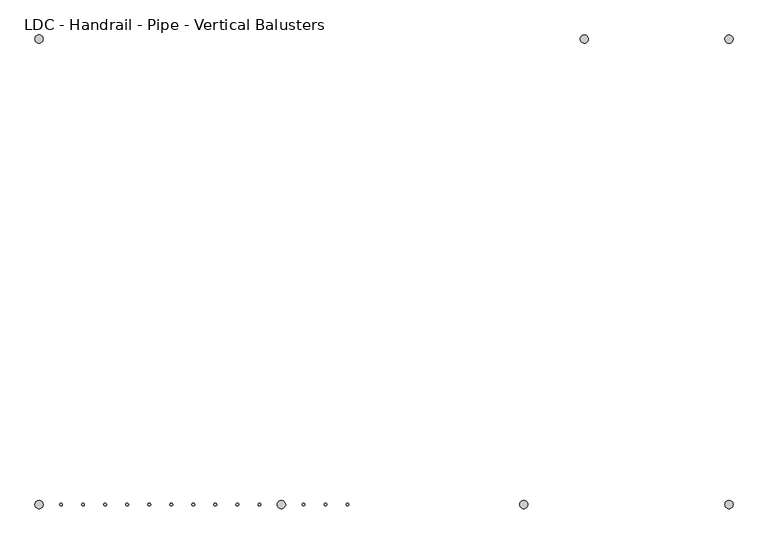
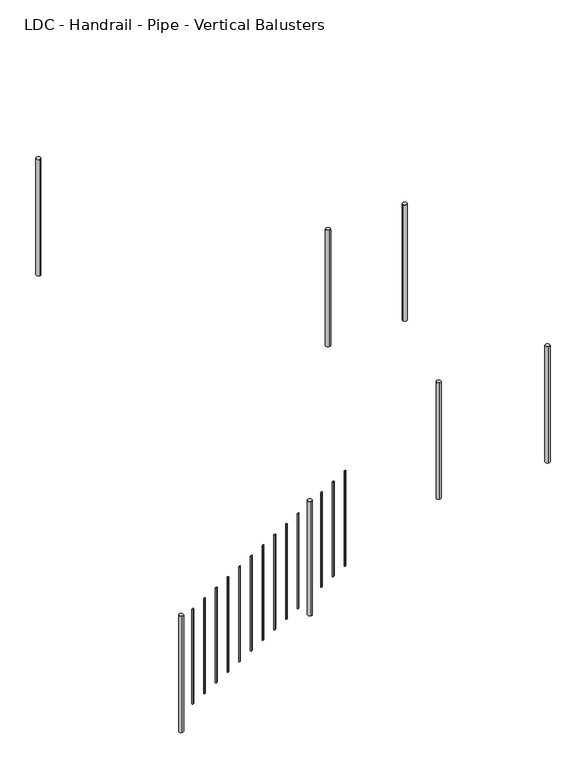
"""IFC4 building model written with IfcOpenShell, lengths in millimetres: railing geometry, LDC - Handrail - Pipe - Vertical Balusters."""

from ifc_helpers import new_model, si_unit, point, frame, frame_2d, origin, place, context, project, spatial, circle_curve, ellipse_curve, trimmed, segment, composite_curve, outline, extrude, source, transform, mapped, element, save
from ifc_brep_helpers import plane_surface, cylinder_surface, advanced_brep


def ldc_handrail_pipe_vertical_balusters_a562cb55(model_context):
    return source(origin(), model_context, "Body", "SolidModel", [
        advanced_brep(
        [(-1486.9516552, 8341.677236, 2057.7034503), (-1486.9516552, 8341.677236, 1192.6170455), (-1486.9516552, 8354.377236, 1192.6170455), (-1486.9516552, 8354.377236, 2057.7034503)],
        [
            (0, 1),
            (1, 2, ellipse_curve(frame((-1486.9516552, 8348.027236, 1192.6170455), z_axis=(-0.5183017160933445, 0.0, 0.8551978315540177), x_axis=(0.8551978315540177, 0.0, 0.5183017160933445)), 7.4251825, 6.35)),
            (2, 3),
            (3, 0, ellipse_curve(frame((-1486.9516552, 8348.027236, 2057.7034503), z_axis=(0.5183017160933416, 0.0, -0.8551978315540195), x_axis=(0.8551978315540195, 0.0, 0.5183017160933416)), 7.4251825, 6.35)),
            (0, 3, ellipse_curve(frame((-1486.9516552, 8348.027236, 2057.7034503), z_axis=(0.5183017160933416, 0.0, -0.8551978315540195), x_axis=(0.8551978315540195, 0.0, 0.5183017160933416)), 7.4251825, 6.35)),
            (2, 1, ellipse_curve(frame((-1486.9516552, 8348.027236, 1192.6170455), z_axis=(-0.5183017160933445, 0.0, 0.8551978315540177), x_axis=(0.8551978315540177, 0.0, 0.5183017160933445)), 7.4251825, 6.35)),
        ],
        [
            cylinder_surface(frame((-1486.9516552, 8348.027236, 964.0170455), z_axis=(0.0, 0.0, 1.0), x_axis=(0.0, 1.0, 0.0)), 6.35),
            plane_surface(frame((-1474.2516552, 8360.727236, 2065.40042), z_axis=(-0.5183017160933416, 0.0, 0.8551978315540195), x_axis=(0.0, -1.0, 0.0))),
            plane_surface(frame((-1499.6516552, 8360.727236, 1184.9200758), z_axis=(0.5183017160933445, 0.0, -0.8551978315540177), x_axis=(0.0, -1.0, 0.0))),
        ],
        [
            (0, [[1, 2, 3, 4]]),
            (0, [[-1, 5, -3, 6]]),
            (1, [[-4, -5]]),
            (2, [[-2, -6]]),
        ],
    ),
        advanced_brep(
        [(-1588.5516552, 8341.677236, 1995.8852684), (-1588.5516552, 8341.677236, 1130.7988636), (-1588.5516552, 8354.377236, 1130.7988636), (-1588.5516552, 8354.377236, 1995.8852684)],
        [
            (0, 1),
            (1, 2, ellipse_curve(frame((-1588.5516552, 8348.027236, 1130.7988636), z_axis=(-0.5183017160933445, 0.0, 0.8551978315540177), x_axis=(0.8551978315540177, 0.0, 0.5183017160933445)), 7.4251825, 6.35)),
            (2, 3),
            (3, 0, ellipse_curve(frame((-1588.5516552, 8348.027236, 1995.8852684), z_axis=(0.5183017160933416, 0.0, -0.8551978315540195), x_axis=(0.8551978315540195, 0.0, 0.5183017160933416)), 7.4251825, 6.35)),
            (0, 3, ellipse_curve(frame((-1588.5516552, 8348.027236, 1995.8852684), z_axis=(0.5183017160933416, 0.0, -0.8551978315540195), x_axis=(0.8551978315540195, 0.0, 0.5183017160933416)), 7.4251825, 6.35)),
            (2, 1, ellipse_curve(frame((-1588.5516552, 8348.027236, 1130.7988636), z_axis=(-0.5183017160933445, 0.0, 0.8551978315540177), x_axis=(0.8551978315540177, 0.0, 0.5183017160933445)), 7.4251825, 6.35)),
        ],
        [
            cylinder_surface(frame((-1588.5516552, 8348.027236, 902.1988636), z_axis=(0.0, 0.0, 1.0), x_axis=(0.0, 1.0, 0.0)), 6.35),
            plane_surface(frame((-1575.8516552, 8360.727236, 2003.5822381), z_axis=(-0.5183017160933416, 0.0, 0.8551978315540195), x_axis=(0.0, -1.0, 0.0))),
            plane_surface(frame((-1601.2516552, 8360.727236, 1123.1018939), z_axis=(0.5183017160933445, 0.0, -0.8551978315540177), x_axis=(0.0, -1.0, 0.0))),
        ],
        [
            (0, [[1, 2, 3, 4]]),
            (0, [[-1, 5, -3, 6]]),
            (1, [[-4, -5]]),
            (2, [[-2, -6]]),
        ],
    ),
        advanced_brep(
        [(-1690.1516552, 8341.677236, 1934.0670866), (-1690.1516552, 8341.677236, 1068.9806818), (-1690.1516552, 8354.377236, 1068.9806818), (-1690.1516552, 8354.377236, 1934.0670866)],
        [
            (0, 1),
            (1, 2, ellipse_curve(frame((-1690.1516552, 8348.027236, 1068.9806818), z_axis=(-0.5183017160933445, 0.0, 0.8551978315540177), x_axis=(0.8551978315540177, 0.0, 0.5183017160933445)), 7.4251825, 6.35)),
            (2, 3),
            (3, 0, ellipse_curve(frame((-1690.1516552, 8348.027236, 1934.0670866), z_axis=(0.5183017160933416, 0.0, -0.8551978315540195), x_axis=(0.8551978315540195, 0.0, 0.5183017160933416)), 7.4251825, 6.35)),
            (0, 3, ellipse_curve(frame((-1690.1516552, 8348.027236, 1934.0670866), z_axis=(0.5183017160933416, 0.0, -0.8551978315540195), x_axis=(0.8551978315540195, 0.0, 0.5183017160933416)), 7.4251825, 6.35)),
            (2, 1, ellipse_curve(frame((-1690.1516552, 8348.027236, 1068.9806818), z_axis=(-0.5183017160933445, 0.0, 0.8551978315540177), x_axis=(0.8551978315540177, 0.0, 0.5183017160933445)), 7.4251825, 6.35)),
        ],
        [
            cylinder_surface(frame((-1690.1516552, 8348.027236, 840.3806818), z_axis=(0.0, 0.0, 1.0), x_axis=(0.0, 1.0, 0.0)), 6.35),
            plane_surface(frame((-1677.4516552, 8360.727236, 1941.7640563), z_axis=(-0.5183017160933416, 0.0, 0.8551978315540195), x_axis=(0.0, -1.0, 0.0))),
            plane_surface(frame((-1702.8516552, 8360.727236, 1061.2837121), z_axis=(0.5183017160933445, 0.0, -0.8551978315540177), x_axis=(0.0, -1.0, 0.0))),
        ],
        [
            (0, [[1, 2, 3, 4]]),
            (0, [[-1, 5, -3, 6]]),
            (1, [[-4, -5]]),
            (2, [[-2, -6]]),
        ],
    ),
        extrude(outline(composite_curve([segment(trimmed(circle_curve(frame_2d((-1791.7516552, 8348.027236)), 19.05), [point((-1791.7516552, 8367.077236))], [point((-1791.7516552, 8328.977236))], False, "CARTESIAN"), True, "CONTINUOUS"), segment(trimmed(circle_curve(frame_2d((-1791.7516552, 8348.027236)), 19.05), [point((-1791.7516552, 8328.977236))], [point((-1791.7516552, 8367.077236))], False, "CARTESIAN"), True, "CONTINUOUS")], self_intersect=False)), frame((0.0, 0.0, 850.0), z_axis=(0.0, 0.0, 1.0), x_axis=(1.0, 0.0, 0.0)), (0.0, 0.0, 1.0), 1047.75),
        advanced_brep(
        [(-1791.7516552, 8341.677236, 1872.2489048), (-1791.7516552, 8341.677236, 1007.1625), (-1791.7516552, 8354.377236, 1007.1625), (-1791.7516552, 8354.377236, 1872.2489048)],
        [
            (0, 1),
            (1, 2, ellipse_curve(frame((-1791.7516552, 8348.027236, 1007.1625), z_axis=(-0.5183017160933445, 0.0, 0.8551978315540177), x_axis=(0.8551978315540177, 0.0, 0.5183017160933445)), 7.4251825, 6.35)),
            (2, 3),
            (3, 0, ellipse_curve(frame((-1791.7516552, 8348.027236, 1872.2489048), z_axis=(0.5183017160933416, 0.0, -0.8551978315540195), x_axis=(0.8551978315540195, 0.0, 0.5183017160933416)), 7.4251825, 6.35)),
            (0, 3, ellipse_curve(frame((-1791.7516552, 8348.027236, 1872.2489048), z_axis=(0.5183017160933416, 0.0, -0.8551978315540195), x_axis=(0.8551978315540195, 0.0, 0.5183017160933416)), 7.4251825, 6.35)),
            (2, 1, ellipse_curve(frame((-1791.7516552, 8348.027236, 1007.1625), z_axis=(-0.5183017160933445, 0.0, 0.8551978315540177), x_axis=(0.8551978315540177, 0.0, 0.5183017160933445)), 7.4251825, 6.35)),
        ],
        [
            cylinder_surface(frame((-1791.7516552, 8348.027236, 778.5625), z_axis=(0.0, 0.0, 1.0), x_axis=(0.0, 1.0, 0.0)), 6.35),
            plane_surface(frame((-1779.0516552, 8360.727236, 1879.9458745), z_axis=(-0.5183017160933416, 0.0, 0.8551978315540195), x_axis=(0.0, -1.0, 0.0))),
            plane_surface(frame((-1804.4516552, 8360.727236, 999.4655303), z_axis=(0.5183017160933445, 0.0, -0.8551978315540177), x_axis=(0.0, -1.0, 0.0))),
        ],
        [
            (0, [[1, 2, 3, 4]]),
            (0, [[-1, 5, -3, 6]]),
            (1, [[-4, -5]]),
            (2, [[-2, -6]]),
        ],
    ),
        advanced_brep(
        [(-1893.3516552, 8341.677236, 1810.430723), (-1893.3516552, 8341.677236, 945.3443182), (-1893.3516552, 8354.377236, 945.3443182), (-1893.3516552, 8354.377236, 1810.430723)],
        [
            (0, 1),
            (1, 2, ellipse_curve(frame((-1893.3516552, 8348.027236, 945.3443182), z_axis=(-0.5183017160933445, 0.0, 0.8551978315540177), x_axis=(0.8551978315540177, 0.0, 0.5183017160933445)), 7.4251825, 6.35)),
            (2, 3),
            (3, 0, ellipse_curve(frame((-1893.3516552, 8348.027236, 1810.430723), z_axis=(0.5183017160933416, 0.0, -0.8551978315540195), x_axis=(0.8551978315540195, 0.0, 0.5183017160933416)), 7.4251825, 6.35)),
            (0, 3, ellipse_curve(frame((-1893.3516552, 8348.027236, 1810.430723), z_axis=(0.5183017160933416, 0.0, -0.8551978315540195), x_axis=(0.8551978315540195, 0.0, 0.5183017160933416)), 7.4251825, 6.35)),
            (2, 1, ellipse_curve(frame((-1893.3516552, 8348.027236, 945.3443182), z_axis=(-0.5183017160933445, 0.0, 0.8551978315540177), x_axis=(0.8551978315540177, 0.0, 0.5183017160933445)), 7.4251825, 6.35)),
        ],
        [
            cylinder_surface(frame((-1893.3516552, 8348.027236, 716.7443182), z_axis=(0.0, 0.0, 1.0), x_axis=(0.0, 1.0, 0.0)), 6.35),
            plane_surface(frame((-1880.6516552, 8360.727236, 1818.1276927), z_axis=(-0.5183017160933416, 0.0, 0.8551978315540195), x_axis=(0.0, -1.0, 0.0))),
            plane_surface(frame((-1906.0516552, 8360.727236, 937.6473485), z_axis=(0.5183017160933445, 0.0, -0.8551978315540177), x_axis=(0.0, -1.0, 0.0))),
        ],
        [
            (0, [[1, 2, 3, 4]]),
            (0, [[-1, 5, -3, 6]]),
            (1, [[-4, -5]]),
            (2, [[-2, -6]]),
        ],
    ),
        advanced_brep(
        [(-1994.9516552, 8341.677236, 1748.6125412), (-1994.9516552, 8341.677236, 883.5261364), (-1994.9516552, 8354.377236, 883.5261364), (-1994.9516552, 8354.377236, 1748.6125412)],
        [
            (0, 1),
            (1, 2, ellipse_curve(frame((-1994.9516552, 8348.027236, 883.5261364), z_axis=(-0.5183017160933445, 0.0, 0.8551978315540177), x_axis=(0.8551978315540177, 0.0, 0.5183017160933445)), 7.4251825, 6.35)),
            (2, 3),
            (3, 0, ellipse_curve(frame((-1994.9516552, 8348.027236, 1748.6125412), z_axis=(0.5183017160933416, 0.0, -0.8551978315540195), x_axis=(0.8551978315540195, 0.0, 0.5183017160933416)), 7.4251825, 6.35)),
            (0, 3, ellipse_curve(frame((-1994.9516552, 8348.027236, 1748.6125412), z_axis=(0.5183017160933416, 0.0, -0.8551978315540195), x_axis=(0.8551978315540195, 0.0, 0.5183017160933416)), 7.4251825, 6.35)),
            (2, 1, ellipse_curve(frame((-1994.9516552, 8348.027236, 883.5261364), z_axis=(-0.5183017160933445, 0.0, 0.8551978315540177), x_axis=(0.8551978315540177, 0.0, 0.5183017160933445)), 7.4251825, 6.35)),
        ],
        [
            cylinder_surface(frame((-1994.9516552, 8348.027236, 654.9261364), z_axis=(0.0, 0.0, 1.0), x_axis=(0.0, 1.0, 0.0)), 6.35),
            plane_surface(frame((-1982.2516552, 8360.727236, 1756.3095109), z_axis=(-0.5183017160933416, 0.0, 0.8551978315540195), x_axis=(0.0, -1.0, 0.0))),
            plane_surface(frame((-2007.6516552, 8360.727236, 875.8291667), z_axis=(0.5183017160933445, 0.0, -0.8551978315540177), x_axis=(0.0, -1.0, 0.0))),
        ],
        [
            (0, [[1, 2, 3, 4]]),
            (0, [[-1, 5, -3, 6]]),
            (1, [[-4, -5]]),
            (2, [[-2, -6]]),
        ],
    ),
        advanced_brep(
        [(-2096.5516552, 8341.677236, 1686.7943594), (-2096.5516552, 8341.677236, 821.7079545), (-2096.5516552, 8354.377236, 821.7079545), (-2096.5516552, 8354.377236, 1686.7943594)],
        [
            (0, 1),
            (1, 2, ellipse_curve(frame((-2096.5516552, 8348.027236, 821.7079545), z_axis=(-0.5183017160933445, 0.0, 0.8551978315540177), x_axis=(0.8551978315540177, 0.0, 0.5183017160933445)), 7.4251825, 6.35)),
            (2, 3),
            (3, 0, ellipse_curve(frame((-2096.5516552, 8348.027236, 1686.7943594), z_axis=(0.5183017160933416, 0.0, -0.8551978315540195), x_axis=(0.8551978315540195, 0.0, 0.5183017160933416)), 7.4251825, 6.35)),
            (0, 3, ellipse_curve(frame((-2096.5516552, 8348.027236, 1686.7943594), z_axis=(0.5183017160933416, 0.0, -0.8551978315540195), x_axis=(0.8551978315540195, 0.0, 0.5183017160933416)), 7.4251825, 6.35)),
            (2, 1, ellipse_curve(frame((-2096.5516552, 8348.027236, 821.7079545), z_axis=(-0.5183017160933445, 0.0, 0.8551978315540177), x_axis=(0.8551978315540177, 0.0, 0.5183017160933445)), 7.4251825, 6.35)),
        ],
        [
            cylinder_surface(frame((-2096.5516552, 8348.027236, 593.1079545), z_axis=(0.0, 0.0, 1.0), x_axis=(0.0, 1.0, 0.0)), 6.35),
            plane_surface(frame((-2083.8516552, 8360.727236, 1694.4913291), z_axis=(-0.5183017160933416, 0.0, 0.8551978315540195), x_axis=(0.0, -1.0, 0.0))),
            plane_surface(frame((-2109.2516552, 8360.727236, 814.0109848), z_axis=(0.5183017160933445, 0.0, -0.8551978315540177), x_axis=(0.0, -1.0, 0.0))),
        ],
        [
            (0, [[1, 2, 3, 4]]),
            (0, [[-1, 5, -3, 6]]),
            (1, [[-4, -5]]),
            (2, [[-2, -6]]),
        ],
    ),
        advanced_brep(
        [(-2198.1516552, 8341.677236, 1624.9761775), (-2198.1516552, 8341.677236, 759.8897727), (-2198.1516552, 8354.377236, 759.8897727), (-2198.1516552, 8354.377236, 1624.9761775)],
        [
            (0, 1),
            (1, 2, ellipse_curve(frame((-2198.1516552, 8348.027236, 759.8897727), z_axis=(-0.5183017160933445, 0.0, 0.8551978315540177), x_axis=(0.8551978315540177, 0.0, 0.5183017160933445)), 7.4251825, 6.35)),
            (2, 3),
            (3, 0, ellipse_curve(frame((-2198.1516552, 8348.027236, 1624.9761775), z_axis=(0.5183017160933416, 0.0, -0.8551978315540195), x_axis=(0.8551978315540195, 0.0, 0.5183017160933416)), 7.4251825, 6.35)),
            (0, 3, ellipse_curve(frame((-2198.1516552, 8348.027236, 1624.9761775), z_axis=(0.5183017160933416, 0.0, -0.8551978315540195), x_axis=(0.8551978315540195, 0.0, 0.5183017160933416)), 7.4251825, 6.35)),
            (2, 1, ellipse_curve(frame((-2198.1516552, 8348.027236, 759.8897727), z_axis=(-0.5183017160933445, 0.0, 0.8551978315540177), x_axis=(0.8551978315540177, 0.0, 0.5183017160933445)), 7.4251825, 6.35)),
        ],
        [
            cylinder_surface(frame((-2198.1516552, 8348.027236, 531.2897727), z_axis=(0.0, 0.0, 1.0), x_axis=(0.0, 1.0, 0.0)), 6.35),
            plane_surface(frame((-2185.4516552, 8360.727236, 1632.6731472), z_axis=(-0.5183017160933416, 0.0, 0.8551978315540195), x_axis=(0.0, -1.0, 0.0))),
            plane_surface(frame((-2210.8516552, 8360.727236, 752.192803), z_axis=(0.5183017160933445, 0.0, -0.8551978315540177), x_axis=(0.0, -1.0, 0.0))),
        ],
        [
            (0, [[1, 2, 3, 4]]),
            (0, [[-1, 5, -3, 6]]),
            (1, [[-4, -5]]),
            (2, [[-2, -6]]),
        ],
    ),
        advanced_brep(
        [(-2299.7516552, 8341.677236, 1563.1579957), (-2299.7516552, 8341.677236, 698.0715909), (-2299.7516552, 8354.377236, 698.0715909), (-2299.7516552, 8354.377236, 1563.1579957)],
        [
            (0, 1),
            (1, 2, ellipse_curve(frame((-2299.7516552, 8348.027236, 698.0715909), z_axis=(-0.5183017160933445, 0.0, 0.8551978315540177), x_axis=(0.8551978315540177, 0.0, 0.5183017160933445)), 7.4251825, 6.35)),
            (2, 3),
            (3, 0, ellipse_curve(frame((-2299.7516552, 8348.027236, 1563.1579957), z_axis=(0.5183017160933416, 0.0, -0.8551978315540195), x_axis=(0.8551978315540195, 0.0, 0.5183017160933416)), 7.4251825, 6.35)),
            (0, 3, ellipse_curve(frame((-2299.7516552, 8348.027236, 1563.1579957), z_axis=(0.5183017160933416, 0.0, -0.8551978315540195), x_axis=(0.8551978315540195, 0.0, 0.5183017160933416)), 7.4251825, 6.35)),
            (2, 1, ellipse_curve(frame((-2299.7516552, 8348.027236, 698.0715909), z_axis=(-0.5183017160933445, 0.0, 0.8551978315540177), x_axis=(0.8551978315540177, 0.0, 0.5183017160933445)), 7.4251825, 6.35)),
        ],
        [
            cylinder_surface(frame((-2299.7516552, 8348.027236, 469.4715909), z_axis=(0.0, 0.0, 1.0), x_axis=(0.0, 1.0, 0.0)), 6.35),
            plane_surface(frame((-2287.0516552, 8360.727236, 1570.8549654), z_axis=(-0.5183017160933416, 0.0, 0.8551978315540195), x_axis=(0.0, -1.0, 0.0))),
            plane_surface(frame((-2312.4516552, 8360.727236, 690.3746212), z_axis=(0.5183017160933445, 0.0, -0.8551978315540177), x_axis=(0.0, -1.0, 0.0))),
        ],
        [
            (0, [[1, 2, 3, 4]]),
            (0, [[-1, 5, -3, 6]]),
            (1, [[-4, -5]]),
            (2, [[-2, -6]]),
        ],
    ),
        advanced_brep(
        [(-2401.3516552, 8341.677236, 1501.3398139), (-2401.3516552, 8341.677236, 636.2534091), (-2401.3516552, 8354.377236, 636.2534091), (-2401.3516552, 8354.377236, 1501.3398139)],
        [
            (0, 1),
            (1, 2, ellipse_curve(frame((-2401.3516552, 8348.027236, 636.2534091), z_axis=(-0.5183017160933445, 0.0, 0.8551978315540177), x_axis=(0.8551978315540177, 0.0, 0.5183017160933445)), 7.4251825, 6.35)),
            (2, 3),
            (3, 0, ellipse_curve(frame((-2401.3516552, 8348.027236, 1501.3398139), z_axis=(0.5183017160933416, 0.0, -0.8551978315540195), x_axis=(0.8551978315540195, 0.0, 0.5183017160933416)), 7.4251825, 6.35)),
            (0, 3, ellipse_curve(frame((-2401.3516552, 8348.027236, 1501.3398139), z_axis=(0.5183017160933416, 0.0, -0.8551978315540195), x_axis=(0.8551978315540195, 0.0, 0.5183017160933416)), 7.4251825, 6.35)),
            (2, 1, ellipse_curve(frame((-2401.3516552, 8348.027236, 636.2534091), z_axis=(-0.5183017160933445, 0.0, 0.8551978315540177), x_axis=(0.8551978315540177, 0.0, 0.5183017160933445)), 7.4251825, 6.35)),
        ],
        [
            cylinder_surface(frame((-2401.3516552, 8348.027236, 407.6534091), z_axis=(0.0, 0.0, 1.0), x_axis=(0.0, 1.0, 0.0)), 6.35),
            plane_surface(frame((-2388.6516552, 8360.727236, 1509.0367836), z_axis=(-0.5183017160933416, 0.0, 0.8551978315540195), x_axis=(0.0, -1.0, 0.0))),
            plane_surface(frame((-2414.0516552, 8360.727236, 628.5564394), z_axis=(0.5183017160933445, 0.0, -0.8551978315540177), x_axis=(0.0, -1.0, 0.0))),
        ],
        [
            (0, [[1, 2, 3, 4]]),
            (0, [[-1, 5, -3, 6]]),
            (1, [[-4, -5]]),
            (2, [[-2, -6]]),
        ],
    ),
        advanced_brep(
        [(-2502.9516552, 8341.677236, 1439.5216321), (-2502.9516552, 8341.677236, 574.4352273), (-2502.9516552, 8354.377236, 574.4352273), (-2502.9516552, 8354.377236, 1439.5216321)],
        [
            (0, 1),
            (1, 2, ellipse_curve(frame((-2502.9516552, 8348.027236, 574.4352273), z_axis=(-0.5183017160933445, 0.0, 0.8551978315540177), x_axis=(0.8551978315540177, 0.0, 0.5183017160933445)), 7.4251825, 6.35)),
            (2, 3),
            (3, 0, ellipse_curve(frame((-2502.9516552, 8348.027236, 1439.5216321), z_axis=(0.5183017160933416, 0.0, -0.8551978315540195), x_axis=(0.8551978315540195, 0.0, 0.5183017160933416)), 7.4251825, 6.35)),
            (0, 3, ellipse_curve(frame((-2502.9516552, 8348.027236, 1439.5216321), z_axis=(0.5183017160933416, 0.0, -0.8551978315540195), x_axis=(0.8551978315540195, 0.0, 0.5183017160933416)), 7.4251825, 6.35)),
            (2, 1, ellipse_curve(frame((-2502.9516552, 8348.027236, 574.4352273), z_axis=(-0.5183017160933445, 0.0, 0.8551978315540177), x_axis=(0.8551978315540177, 0.0, 0.5183017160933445)), 7.4251825, 6.35)),
        ],
        [
            cylinder_surface(frame((-2502.9516552, 8348.027236, 345.8352273), z_axis=(0.0, 0.0, 1.0), x_axis=(0.0, 1.0, 0.0)), 6.35),
            plane_surface(frame((-2490.2516552, 8360.727236, 1447.2186018), z_axis=(-0.5183017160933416, 0.0, 0.8551978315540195), x_axis=(0.0, -1.0, 0.0))),
            plane_surface(frame((-2515.6516552, 8360.727236, 566.7382576), z_axis=(0.5183017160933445, 0.0, -0.8551978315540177), x_axis=(0.0, -1.0, 0.0))),
        ],
        [
            (0, [[1, 2, 3, 4]]),
            (0, [[-1, 5, -3, 6]]),
            (1, [[-4, -5]]),
            (2, [[-2, -6]]),
        ],
    ),
        advanced_brep(
        [(-2604.5516552, 8341.677236, 1377.7034503), (-2604.5516552, 8341.677236, 512.6170455), (-2604.5516552, 8354.377236, 512.6170455), (-2604.5516552, 8354.377236, 1377.7034503)],
        [
            (0, 1),
            (1, 2, ellipse_curve(frame((-2604.5516552, 8348.027236, 512.6170455), z_axis=(-0.5183017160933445, 0.0, 0.8551978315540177), x_axis=(0.8551978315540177, 0.0, 0.5183017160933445)), 7.4251825, 6.35)),
            (2, 3),
            (3, 0, ellipse_curve(frame((-2604.5516552, 8348.027236, 1377.7034503), z_axis=(0.5183017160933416, 0.0, -0.8551978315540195), x_axis=(0.8551978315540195, 0.0, 0.5183017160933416)), 7.4251825, 6.35)),
            (0, 3, ellipse_curve(frame((-2604.5516552, 8348.027236, 1377.7034503), z_axis=(0.5183017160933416, 0.0, -0.8551978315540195), x_axis=(0.8551978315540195, 0.0, 0.5183017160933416)), 7.4251825, 6.35)),
            (2, 1, ellipse_curve(frame((-2604.5516552, 8348.027236, 512.6170455), z_axis=(-0.5183017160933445, 0.0, 0.8551978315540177), x_axis=(0.8551978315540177, 0.0, 0.5183017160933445)), 7.4251825, 6.35)),
        ],
        [
            cylinder_surface(frame((-2604.5516552, 8348.027236, 284.0170455), z_axis=(0.0, 0.0, 1.0), x_axis=(0.0, 1.0, 0.0)), 6.35),
            plane_surface(frame((-2591.8516552, 8360.727236, 1385.40042), z_axis=(-0.5183017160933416, 0.0, 0.8551978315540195), x_axis=(0.0, -1.0, 0.0))),
            plane_surface(frame((-2617.2516552, 8360.727236, 504.9200758), z_axis=(0.5183017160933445, 0.0, -0.8551978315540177), x_axis=(0.0, -1.0, 0.0))),
        ],
        [
            (0, [[1, 2, 3, 4]]),
            (0, [[-1, 5, -3, 6]]),
            (1, [[-4, -5]]),
            (2, [[-2, -6]]),
        ],
    ),
        advanced_brep(
        [(-2706.1516552, 8341.677236, 1315.8852684), (-2706.1516552, 8341.677236, 450.7988636), (-2706.1516552, 8354.377236, 450.7988636), (-2706.1516552, 8354.377236, 1315.8852684)],
        [
            (0, 1),
            (1, 2, ellipse_curve(frame((-2706.1516552, 8348.027236, 450.7988636), z_axis=(-0.5183017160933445, 0.0, 0.8551978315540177), x_axis=(0.8551978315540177, 0.0, 0.5183017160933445)), 7.4251825, 6.35)),
            (2, 3),
            (3, 0, ellipse_curve(frame((-2706.1516552, 8348.027236, 1315.8852684), z_axis=(0.5183017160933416, 0.0, -0.8551978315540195), x_axis=(0.8551978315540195, 0.0, 0.5183017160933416)), 7.4251825, 6.35)),
            (0, 3, ellipse_curve(frame((-2706.1516552, 8348.027236, 1315.8852684), z_axis=(0.5183017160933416, 0.0, -0.8551978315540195), x_axis=(0.8551978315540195, 0.0, 0.5183017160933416)), 7.4251825, 6.35)),
            (2, 1, ellipse_curve(frame((-2706.1516552, 8348.027236, 450.7988636), z_axis=(-0.5183017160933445, 0.0, 0.8551978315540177), x_axis=(0.8551978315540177, 0.0, 0.5183017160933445)), 7.4251825, 6.35)),
        ],
        [
            cylinder_surface(frame((-2706.1516552, 8348.027236, 222.1988636), z_axis=(0.0, 0.0, 1.0), x_axis=(0.0, 1.0, 0.0)), 6.35),
            plane_surface(frame((-2693.4516552, 8360.727236, 1323.5822381), z_axis=(-0.5183017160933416, 0.0, 0.8551978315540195), x_axis=(0.0, -1.0, 0.0))),
            plane_surface(frame((-2718.8516552, 8360.727236, 443.1018939), z_axis=(0.5183017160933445, 0.0, -0.8551978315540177), x_axis=(0.0, -1.0, 0.0))),
        ],
        [
            (0, [[1, 2, 3, 4]]),
            (0, [[-1, 5, -3, 6]]),
            (1, [[-4, -5]]),
            (2, [[-2, -6]]),
        ],
    ),
        advanced_brep(
        [(-2807.7516552, 8341.677236, 1254.0670866), (-2807.7516552, 8341.677236, 388.9806818), (-2807.7516552, 8354.377236, 388.9806818), (-2807.7516552, 8354.377236, 1254.0670866)],
        [
            (0, 1),
            (1, 2, ellipse_curve(frame((-2807.7516552, 8348.027236, 388.9806818), z_axis=(-0.5183017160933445, 0.0, 0.8551978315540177), x_axis=(0.8551978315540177, 0.0, 0.5183017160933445)), 7.4251825, 6.35)),
            (2, 3),
            (3, 0, ellipse_curve(frame((-2807.7516552, 8348.027236, 1254.0670866), z_axis=(0.5183017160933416, 0.0, -0.8551978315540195), x_axis=(0.8551978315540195, 0.0, 0.5183017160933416)), 7.4251825, 6.35)),
            (0, 3, ellipse_curve(frame((-2807.7516552, 8348.027236, 1254.0670866), z_axis=(0.5183017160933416, 0.0, -0.8551978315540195), x_axis=(0.8551978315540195, 0.0, 0.5183017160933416)), 7.4251825, 6.35)),
            (2, 1, ellipse_curve(frame((-2807.7516552, 8348.027236, 388.9806818), z_axis=(-0.5183017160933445, 0.0, 0.8551978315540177), x_axis=(0.8551978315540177, 0.0, 0.5183017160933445)), 7.4251825, 6.35)),
        ],
        [
            cylinder_surface(frame((-2807.7516552, 8348.027236, 160.3806818), z_axis=(0.0, 0.0, 1.0), x_axis=(0.0, 1.0, 0.0)), 6.35),
            plane_surface(frame((-2795.0516552, 8360.727236, 1261.7640563), z_axis=(-0.5183017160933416, 0.0, 0.8551978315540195), x_axis=(0.0, -1.0, 0.0))),
            plane_surface(frame((-2820.4516552, 8360.727236, 381.2837121), z_axis=(0.5183017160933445, 0.0, -0.8551978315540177), x_axis=(0.0, -1.0, 0.0))),
        ],
        [
            (0, [[1, 2, 3, 4]]),
            (0, [[-1, 5, -3, 6]]),
            (1, [[-4, -5]]),
            (2, [[-2, -6]]),
        ],
    ),
        extrude(outline(composite_curve([segment(trimmed(circle_curve(frame_2d((-394.7516552, 10494.327236)), 19.05), [point((-394.7516552, 10475.277236))], [point((-394.7516552, 10513.377236))], False, "CARTESIAN"), True, "CONTINUOUS"), segment(trimmed(circle_curve(frame_2d((-394.7516552, 10494.327236)), 19.05), [point((-394.7516552, 10513.377236))], [point((-394.7516552, 10475.277236))], False, "CARTESIAN"), True, "CONTINUOUS")], self_intersect=False)), frame((0.0, 0.0, 1530.0), z_axis=(0.0, 0.0, 1.0), x_axis=(1.0, 0.0, 0.0)), (0.0, 0.0, 1.0), 1066.8),
        extrude(outline(composite_curve([segment(trimmed(circle_curve(frame_2d((271.9983448, 10494.327236)), 19.05), [point((252.9483448, 10494.327236))], [point((291.0483448, 10494.327236))], False, "CARTESIAN"), True, "CONTINUOUS"), segment(trimmed(circle_curve(frame_2d((271.9983448, 10494.327236)), 19.05), [point((291.0483448, 10494.327236))], [point((252.9483448, 10494.327236))], False, "CARTESIAN"), True, "CONTINUOUS")], self_intersect=False)), frame((0.0, 0.0, 1530.0), z_axis=(0.0, 0.0, 1.0), x_axis=(1.0, 0.0, 0.0)), (0.0, 0.0, 1.0), 1066.8),
        extrude(outline(composite_curve([segment(trimmed(circle_curve(frame_2d((271.9983448, 8348.027236)), 19.05), [point((271.9983448, 8367.077236))], [point((271.9983448, 8328.977236))], False, "CARTESIAN"), True, "CONTINUOUS"), segment(trimmed(circle_curve(frame_2d((271.9983448, 8348.027236)), 19.05), [point((271.9983448, 8328.977236))], [point((271.9983448, 8367.077236))], False, "CARTESIAN"), True, "CONTINUOUS")], self_intersect=False)), frame((0.0, 0.0, 1530.0), z_axis=(0.0, 0.0, 1.0), x_axis=(1.0, 0.0, 0.0)), (0.0, 0.0, 1.0), 1066.8),
        extrude(outline(composite_curve([segment(trimmed(circle_curve(frame_2d((-674.1516552, 8348.027236)), 19.05), [point((-674.1516552, 8367.077236))], [point((-674.1516552, 8328.977236))], False, "CARTESIAN"), True, "CONTINUOUS"), segment(trimmed(circle_curve(frame_2d((-674.1516552, 8348.027236)), 19.05), [point((-674.1516552, 8328.977236))], [point((-674.1516552, 8367.077236))], False, "CARTESIAN"), True, "CONTINUOUS")], self_intersect=False)), frame((0.0, 0.0, 1530.0), z_axis=(0.0, 0.0, 1.0), x_axis=(1.0, 0.0, 0.0)), (0.0, 0.0, 1.0), 1066.8),
        extrude(outline(composite_curve([segment(trimmed(circle_curve(frame_2d((-2909.3516552, 10494.327236)), 19.05), [point((-2909.3516552, 10475.277236))], [point((-2909.3516552, 10513.377236))], False, "CARTESIAN"), True, "CONTINUOUS"), segment(trimmed(circle_curve(frame_2d((-2909.3516552, 10494.327236)), 19.05), [point((-2909.3516552, 10513.377236))], [point((-2909.3516552, 10475.277236))], False, "CARTESIAN"), True, "CONTINUOUS")], self_intersect=False)), frame((0.0, 0.0, 3060.0), z_axis=(0.0, 0.0, 1.0), x_axis=(1.0, 0.0, 0.0)), (0.0, 0.0, 1.0), 1066.8),
        extrude(outline(composite_curve([segment(trimmed(circle_curve(frame_2d((-2909.3516552, 8348.027236)), 19.05), [point((-2909.3516552, 8367.077236))], [point((-2909.3516552, 8328.977236))], False, "CARTESIAN"), True, "CONTINUOUS"), segment(trimmed(circle_curve(frame_2d((-2909.3516552, 8348.027236)), 19.05), [point((-2909.3516552, 8328.977236))], [point((-2909.3516552, 8367.077236))], False, "CARTESIAN"), True, "CONTINUOUS")], self_intersect=False)), frame((0.0, 0.0, 170.0), z_axis=(0.0, 0.0, 1.0), x_axis=(1.0, 0.0, 0.0)), (0.0, 0.0, 1.0), 1066.8),
    ])


if __name__ == "__main__":
    model = new_model("IFC4")
    model_context = context("Model", 3, world=origin())
    ifc_project = project(units=[si_unit("LENGTHUNIT", "METRE", prefix="MILLI")], contexts=[model_context])
    site = spatial("IfcSite", under=ifc_project)
    building = spatial("IfcBuilding", under=site)
    placement = place(None, origin())
    ldc_handrail_pipe_vertical_balusters_shape = ldc_handrail_pipe_vertical_balusters_a562cb55(model_context)
    element("IfcRailing", 1, ObjectType="LDC - Handrail - Pipe - Vertical Balusters", at=placement, inside=building, context=model_context, shape_type="MappedRepresentation", body=[
        mapped(ldc_handrail_pipe_vertical_balusters_shape, transform((0.0, 0.0, 0.0), x_axis=(1.0, 0.0, 0.0), y_axis=(0.0, 1.0, 0.0), z_axis=(0.0, 0.0, 1.0))),
    ])
    save(model, "model.ifc")
